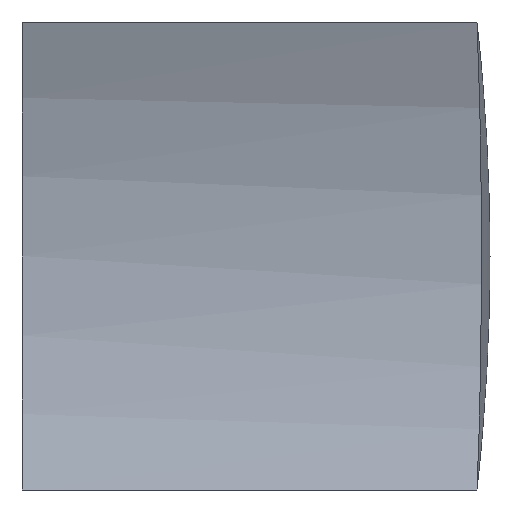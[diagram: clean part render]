
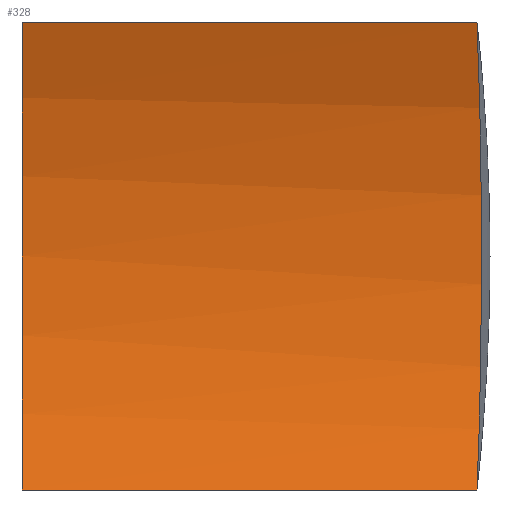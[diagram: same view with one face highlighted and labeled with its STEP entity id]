
A CAD part, left-side view. The second image highlights one B-rep face of the part: STEP entity #328.
In plain terms, the highlighted cylindrical face has radius 28.562 mm (diameter 57.125 mm), a partial arc.
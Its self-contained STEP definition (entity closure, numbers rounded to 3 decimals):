
#176 = EDGE_CURVE( '', #368, #344, #438, .T. );
#198 = EDGE_CURVE( '', #258, #378, #460, .T. );
#220 = EDGE_CURVE( '', #378, #344, #488, .T. );
#230 = EDGE_CURVE( '', #368, #258, #499, .T. );
#258 = VERTEX_POINT( '', #528 );
#328 = ADVANCED_FACE( '', ( #608 ), #609, .F. );
#344 = VERTEX_POINT( '', #626 );
#368 = VERTEX_POINT( '', #654 );
#378 = VERTEX_POINT( '', #665 );
#438 = LINE( '', #729, #730 );
#460 = LINE( '', #762, #763 );
#488 = B_SPLINE_CURVE_WITH_KNOTS( '', 3, ( #798, #799, #800, #801, #802, #803, #804, #805, #806, #807, #808, #809, #810, #811, #812, #813, #814, #815 ), .UNSPECIFIED., .F., .F., ( 4, 2, 2, 2, 2, 2, 2, 2, 4 ), ( 11.764, 13.819, 16.582, 19.346, 22.11, 24.874, 27.637, 30.401, 32.456 ), .UNSPECIFIED. );
#499 = CIRCLE( '', #830, 28.563 );
#528 = CARTESIAN_POINT( '', ( -10.5, 0., 10.5 ) );
#608 = FACE_OUTER_BOUND( '', #1004, .T. );
#609 = CYLINDRICAL_SURFACE( '', #1005, 28.563 );
#626 = CARTESIAN_POINT( '', ( -10.5, -20.415, -10.5 ) );
#654 = CARTESIAN_POINT( '', ( -10.5, 0., -10.5 ) );
#665 = CARTESIAN_POINT( '', ( -10.5, -20.415, 10.5 ) );
#729 = CARTESIAN_POINT( '', ( -10.5, 0., -10.5 ) );
#730 = VECTOR( '', #1136, 1. );
#762 = CARTESIAN_POINT( '', ( -10.5, 0., 10.5 ) );
#763 = VECTOR( '', #1149, 1. );
#798 = CARTESIAN_POINT( '', ( -10.5, -20.415, 10.5 ) );
#799 = CARTESIAN_POINT( '', ( -10.234, -20.445, 9.826 ) );
#800 = CARTESIAN_POINT( '', ( -9.993, -20.471, 9.142 ) );
#801 = CARTESIAN_POINT( '', ( -9.491, -20.523, 7.522 ) );
#802 = CARTESIAN_POINT( '', ( -9.252, -20.547, 6.58 ) );
#803 = CARTESIAN_POINT( '', ( -8.871, -20.583, 4.691 ) );
#804 = CARTESIAN_POINT( '', ( -8.73, -20.596, 3.743 ) );
#805 = CARTESIAN_POINT( '', ( -8.545, -20.613, 1.858 ) );
#806 = CARTESIAN_POINT( '', ( -8.5, -20.617, 0.921 ) );
#807 = CARTESIAN_POINT( '', ( -8.5, -20.617, -0.921 ) );
#808 = CARTESIAN_POINT( '', ( -8.545, -20.613, -1.858 ) );
#809 = CARTESIAN_POINT( '', ( -8.73, -20.596, -3.743 ) );
#810 = CARTESIAN_POINT( '', ( -8.871, -20.583, -4.691 ) );
#811 = CARTESIAN_POINT( '', ( -9.252, -20.547, -6.58 ) );
#812 = CARTESIAN_POINT( '', ( -9.491, -20.523, -7.522 ) );
#813 = CARTESIAN_POINT( '', ( -9.993, -20.471, -9.142 ) );
#814 = CARTESIAN_POINT( '', ( -10.234, -20.445, -9.826 ) );
#815 = CARTESIAN_POINT( '', ( -10.5, -20.415, -10.5 ) );
#830 = AXIS2_PLACEMENT_3D( '', #1208, #1209, #1210 );
#1004 = EDGE_LOOP( '', ( #1340, #1341, #1342, #1343 ) );
#1005 = AXIS2_PLACEMENT_3D( '', #1344, #1345, #1346 );
#1136 = DIRECTION( '', ( 0., -1., 0. ) );
#1149 = DIRECTION( '', ( 0., -1., 0. ) );
#1208 = CARTESIAN_POINT( '', ( -37.063, 0., 0. ) );
#1209 = DIRECTION( '', ( 0., -1., 0. ) );
#1210 = DIRECTION( '', ( 0.93, 0., -0.368 ) );
#1340 = ORIENTED_EDGE( '', *, *, #220, .F. );
#1341 = ORIENTED_EDGE( '', *, *, #198, .F. );
#1342 = ORIENTED_EDGE( '', *, *, #230, .F. );
#1343 = ORIENTED_EDGE( '', *, *, #176, .T. );
#1344 = CARTESIAN_POINT( '', ( -37.063, 0., 0. ) );
#1345 = DIRECTION( '', ( 0., 1., 0. ) );
#1346 = DIRECTION( '', ( 0.93, 0., -0.368 ) );
